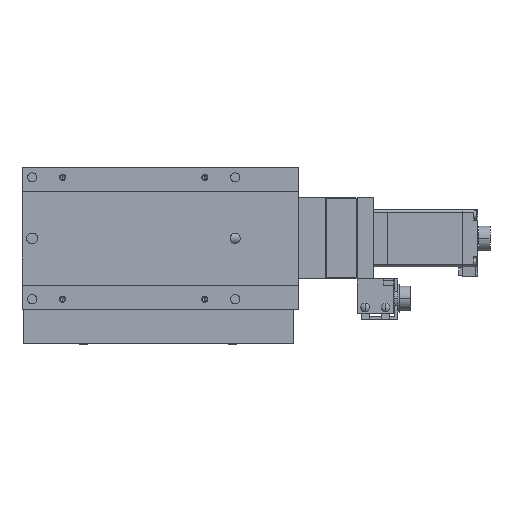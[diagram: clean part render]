
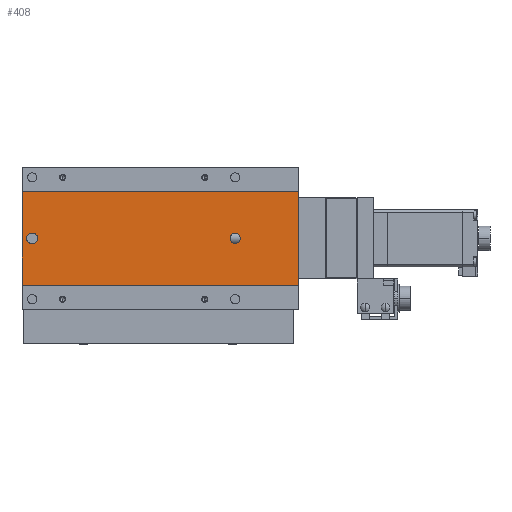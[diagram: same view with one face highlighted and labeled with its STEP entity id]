
A CAD part, front view. The second image highlights one B-rep face of the part: STEP entity #408.
In plain terms, the highlighted planar face has unit normal (0, -1, 0).
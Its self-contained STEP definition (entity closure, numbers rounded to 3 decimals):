
#408=ADVANCED_FACE('',(#1166,#1167,#1168),#1169,.F.);
#1166=FACE_BOUND('',#2575,.T.);
#1167=FACE_OUTER_BOUND('',#2576,.T.);
#1168=FACE_BOUND('',#2577,.T.);
#1169=PLANE('',#2578);
#2575=EDGE_LOOP('',(#4527,#4528,#4529,#4530));
#2576=EDGE_LOOP('',(#4531,#4532,#4533,#4534));
#2577=EDGE_LOOP('',(#4535,#4536,#4537));
#2578=AXIS2_PLACEMENT_3D('',#4538,#4539,#4540);
#4527=ORIENTED_EDGE('',*,*,#9353,.F.);
#4528=ORIENTED_EDGE('',*,*,#9354,.F.);
#4529=ORIENTED_EDGE('',*,*,#9355,.F.);
#4530=ORIENTED_EDGE('',*,*,#9356,.F.);
#4531=ORIENTED_EDGE('',*,*,#9338,.T.);
#4532=ORIENTED_EDGE('',*,*,#9357,.F.);
#4533=ORIENTED_EDGE('',*,*,#9358,.F.);
#4534=ORIENTED_EDGE('',*,*,#9359,.T.);
#4535=ORIENTED_EDGE('',*,*,#9238,.F.);
#4536=ORIENTED_EDGE('',*,*,#9237,.F.);
#4537=ORIENTED_EDGE('',*,*,#9360,.F.);
#4538=CARTESIAN_POINT('',(81.0,0.3,23.1));
#4539=DIRECTION('',(0.0,1.0,0.));
#4540=DIRECTION('',(1.0,0.0,0.0));
#9237=EDGE_CURVE('',#11004,#11006,#11007,.F.);
#9238=EDGE_CURVE('',#11006,#11000,#11008,.F.);
#9338=EDGE_CURVE('',#11195,#11193,#11196,.T.);
#9353=EDGE_CURVE('',#11223,#11224,#11225,.F.);
#9354=EDGE_CURVE('',#11226,#11223,#11227,.T.);
#9355=EDGE_CURVE('',#11228,#11226,#11229,.F.);
#9356=EDGE_CURVE('',#11224,#11228,#11230,.T.);
#9357=EDGE_CURVE('',#11231,#11193,#11232,.T.);
#9358=EDGE_CURVE('',#11233,#11231,#11234,.T.);
#9359=EDGE_CURVE('',#11233,#11195,#11235,.T.);
#9360=EDGE_CURVE('',#11000,#11004,#11236,.F.);
#11000=VERTEX_POINT('',#13824);
#11004=VERTEX_POINT('',#13829);
#11006=VERTEX_POINT('',#13832);
#11007=CIRCLE('',#13833,2.5);
#11008=CIRCLE('',#13834,2.5);
#11193=VERTEX_POINT('',#14075);
#11195=VERTEX_POINT('',#14078);
#11196=LINE('',#14079,#14080);
#11223=VERTEX_POINT('',#14120);
#11224=VERTEX_POINT('',#14121);
#11225=CIRCLE('',#14122,2.5);
#11226=VERTEX_POINT('',#14123);
#11227=LINE('',#14124,#14125);
#11228=VERTEX_POINT('',#14126);
#11229=CIRCLE('',#14127,2.5);
#11230=LINE('',#14128,#14129);
#11231=VERTEX_POINT('',#14130);
#11232=LINE('',#14131,#14132);
#11233=VERTEX_POINT('',#14133);
#11234=LINE('',#14134,#14135);
#11235=LINE('',#14136,#14137);
#11236=CIRCLE('',#14138,2.5);
#13824=CARTESIAN_POINT('',(47.5,0.3,0.));
#13829=CARTESIAN_POINT('',(52.5,0.3,0.));
#13832=CARTESIAN_POINT('',(50.0,0.3,2.5));
#13833=AXIS2_PLACEMENT_3D('',#17563,#17564,#17565);
#13834=AXIS2_PLACEMENT_3D('',#17566,#17567,#17568);
#14075=CARTESIAN_POINT('',(-55.0,0.3,-23.1));
#14078=CARTESIAN_POINT('',(-55.0,0.3,23.1));
#14079=CARTESIAN_POINT('',(-55.0,0.3,23.1));
#14080=VECTOR('',#17752,1000.0);
#14120=CARTESIAN_POINT('',(-50.25,0.3,2.5));
#14121=CARTESIAN_POINT('',(-50.25,0.3,-2.5));
#14122=AXIS2_PLACEMENT_3D('',#17769,#17770,#17771);
#14123=CARTESIAN_POINT('',(-49.75,0.3,2.5));
#14124=CARTESIAN_POINT('',(81.0,0.3,2.5));
#14125=VECTOR('',#17772,1000.0);
#14126=CARTESIAN_POINT('',(-49.75,0.3,-2.5));
#14127=AXIS2_PLACEMENT_3D('',#17773,#17774,#17775);
#14128=CARTESIAN_POINT('',(81.0,0.3,-2.5));
#14129=VECTOR('',#17776,1000.0);
#14130=CARTESIAN_POINT('',(81.0,0.3,-23.1));
#14131=CARTESIAN_POINT('',(81.0,0.3,-23.1));
#14132=VECTOR('',#17777,1000.0);
#14133=CARTESIAN_POINT('',(81.0,0.3,23.1));
#14134=CARTESIAN_POINT('',(81.0,0.3,23.1));
#14135=VECTOR('',#17778,1000.0);
#14136=CARTESIAN_POINT('',(81.0,0.3,23.1));
#14137=VECTOR('',#17779,1000.0);
#14138=AXIS2_PLACEMENT_3D('',#17780,#17781,#17782);
#17563=CARTESIAN_POINT('',(50.0,0.3,0.0));
#17564=DIRECTION('',(0.0,1.0,0.));
#17565=DIRECTION('',(0.0,0.,1.0));
#17566=CARTESIAN_POINT('',(50.0,0.3,0.0));
#17567=DIRECTION('',(0.0,1.0,0.));
#17568=DIRECTION('',(0.0,0.,1.0));
#17752=DIRECTION('',(0.0,0.,-1.0));
#17769=CARTESIAN_POINT('',(-50.25,0.3,0.));
#17770=DIRECTION('',(0.0,1.0,0.));
#17771=DIRECTION('',(0.0,0.,1.0));
#17772=DIRECTION('',(-1.0,0.0,0.0));
#17773=CARTESIAN_POINT('',(-49.75,0.3,0.));
#17774=DIRECTION('',(0.0,1.0,0.));
#17775=DIRECTION('',(0.0,0.,1.0));
#17776=DIRECTION('',(1.0,0.0,0.0));
#17777=DIRECTION('',(-1.0,0.0,0.0));
#17778=DIRECTION('',(0.0,0.,-1.0));
#17779=DIRECTION('',(-1.0,0.0,0.0));
#17780=CARTESIAN_POINT('',(50.0,0.3,0.0));
#17781=DIRECTION('',(0.0,1.0,0.));
#17782=DIRECTION('',(0.0,0.,1.0));
